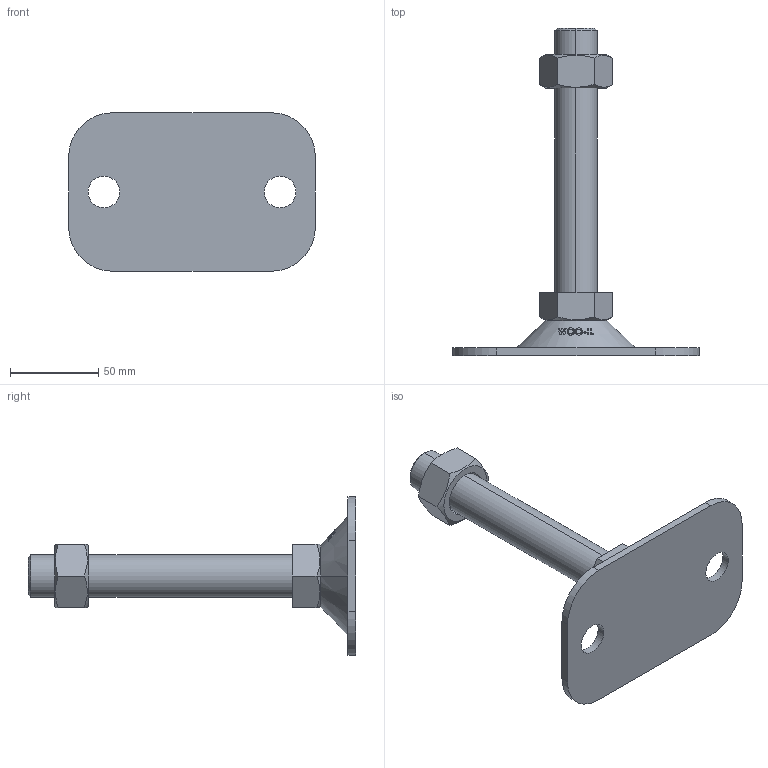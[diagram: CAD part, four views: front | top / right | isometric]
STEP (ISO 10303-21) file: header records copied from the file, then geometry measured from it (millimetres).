
FILE_DESCRIPTION (( 'STEP AP214' ), '1' );
FILE_NAME ('FABL90140-M24-150.step', '2021-03-28T23:54:13', ( '' ), ( '' ), 'SwSTEP 2.0', 'SolidWorks 2019', '' );
FILE_SCHEMA (( 'AUTOMOTIVE_DESIGN' ));
Length unit declared in the file: millimetre
Products named in the file (2): FABL90140-M24-150
Bounding box: 140 x 186 x 90 mm (x, y, z)
Volume: 183411.5 mm3; surface area: 44962.9 mm2
Topology: 2 solids, 2 shells, 130 faces, 337 edges, 222 vertices
Faces by surface type: plane 50, cylinder 40, cone 22, bspline 18
Entity records: 5639 total; most frequent: CARTESIAN_POINT 2661, ORIENTED_EDGE 674, DIRECTION 485, EDGE_CURVE 337, VERTEX_POINT 222, AXIS2_PLACEMENT_3D 178, EDGE_LOOP 147, B_SPLINE_CURVE_WITH_KNOTS 144
